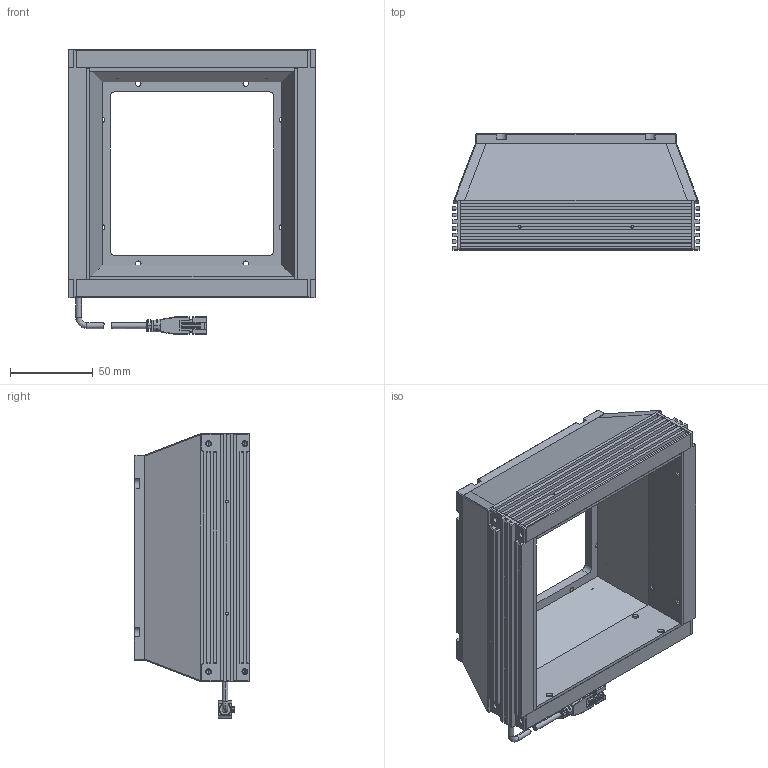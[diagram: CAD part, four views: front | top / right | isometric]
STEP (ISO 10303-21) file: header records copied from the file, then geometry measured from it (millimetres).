
FILE_DESCRIPTION (( 'STEP AP203' ), '1' );
FILE_NAME ('SPQ-150-150-DG-¼òÒ×3DÍ¼.STEP', '2022-02-09T06:46:48', ( '' ), ( '' ), 'SwSTEP 2.0', 'SolidWorks 2018', '' );
FILE_SCHEMA (( 'CONFIG_CONTROL_DESIGN' ));
Length unit declared in the file: millimetre
Products named in the file (1): SPQ-150-150-DG-潠眢3D芞
Bounding box: 150 x 70 x 172.25 mm (x, y, z)
Surface area: 185742.8 mm2 (no closed solid volume)
Topology: 0 solids, 15 shells, 879 faces, 2368 edges, 1469 vertices
Faces by surface type: plane 494, cylinder 245, cone 106, bspline 28, torus 6
Entity records: 27529 total; most frequent: CARTESIAN_POINT 5535, ORIENTED_EDGE 4525, DIRECTION 4509, EDGE_CURVE 2288, LINE 1647, VECTOR 1647, VERTEX_POINT 1469, AXIS2_PLACEMENT_3D 1431
